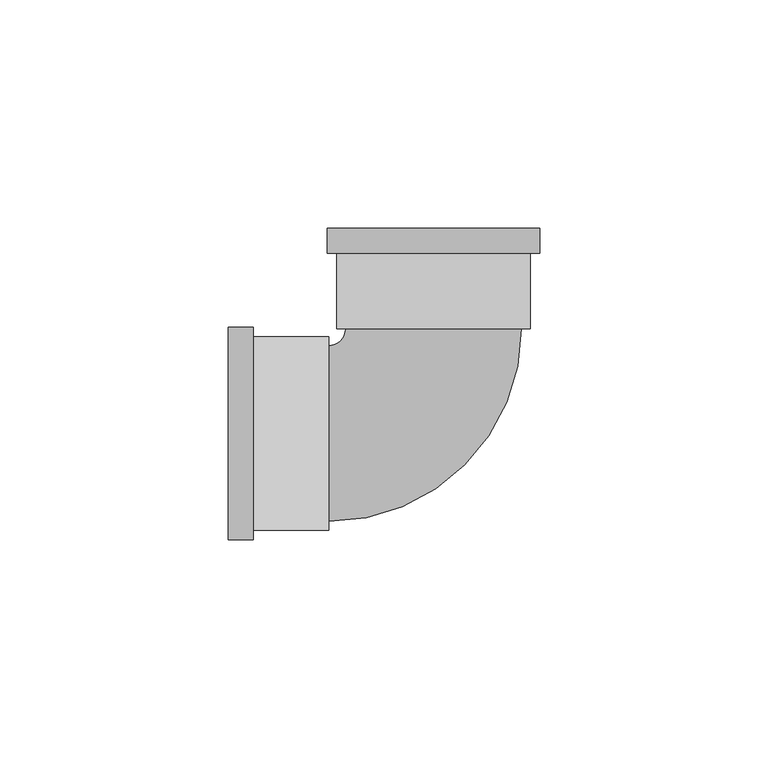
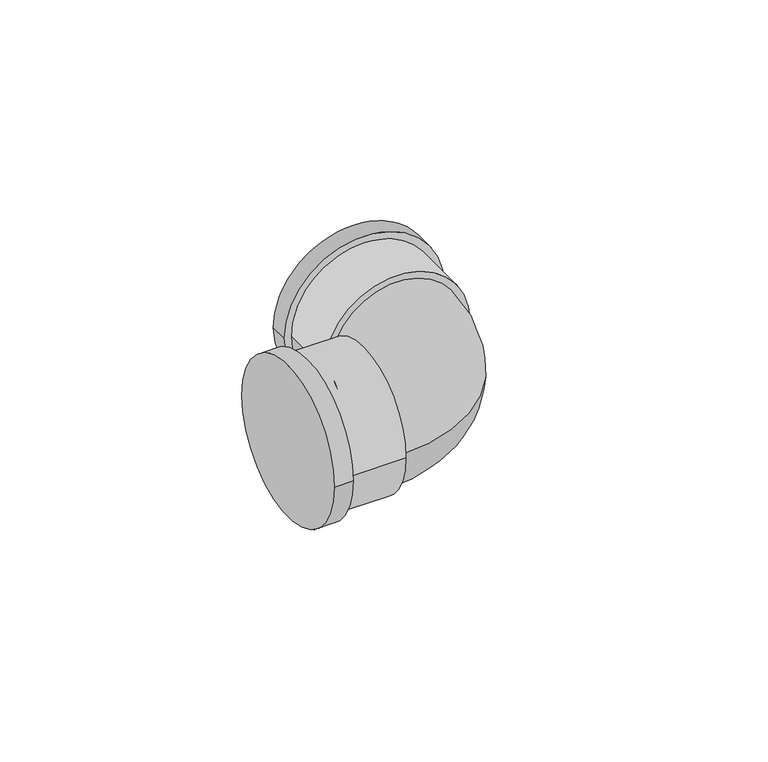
"""IFC4 building model written with IfcOpenShell, lengths in millimetres: pipe fitting geometry, Cotovelo - PVC - CW : Padrão."""

from ifc_helpers import new_model, si_unit, point, frame, origin, place, context, project, spatial, circle_curve, ellipse_curve, trimmed, source, transform, mapped, element, save
from ifc_brep_helpers import plane_surface, cylinder_surface, revolved_surface, advanced_brep


def pipe_fitting_337ff715(model_context):
    return source(origin(), model_context, "Body", "AdvancedBrep", [
        advanced_brep(
        [(-45.0002796, -23.2925, 0.0), (-45.0002796, 23.2925, 0.0), (-39.5002796, -23.2925, 0.0), (-39.5002796, 23.2925, 0.0), (-39.5002796, -21.175, 0.0), (-39.5002796, 21.175, 0.0), (-23.0002796, 21.175, 0.0), (-23.0002796, -21.175, 0.0), (-23.0002796, -19.25, 0.0), (-23.0002796, 19.25, 0.0), (-19.2502796, 23.0000456, 0.0), (19.2497204, 23.0005136, 0.0), (21.1747204, 23.000537, 0.0), (-21.1752796, 23.0000222, 0.0), (-23.2930471, 44.9999964, 0.0), (23.2919529, 45.0005628, 0.0), (21.1745198, 39.500537, 0.0), (-21.1754802, 39.5000222, 0.0), (-23.2929802, 39.4999964, 0.0), (23.2920198, 39.5005628, 0.0)],
        [
            (0, 1, circle_curve(frame((-45.0002796, 0.0, 0.0), z_axis=(-1.0, 0.0, 0.0), x_axis=(0.0, 1.0, 0.0)), 23.2925)),
            (1, 0, circle_curve(frame((-45.0002796, 0.0, 0.0), z_axis=(-1.0, 0.0, 0.0), x_axis=(0.0, 1.0, 0.0)), 23.2925)),
            (2, 3, circle_curve(frame((-39.5002796, 0.0, 0.0), z_axis=(1.0, 0.0, 0.0), x_axis=(0.0, 1.0, 0.0)), 23.2925)),
            (3, 2, circle_curve(frame((-39.5002796, 0.0, 0.0), z_axis=(1.0, 0.0, 0.0), x_axis=(0.0, 1.0, 0.0)), 23.2925)),
            (4, 5, circle_curve(frame((-39.5002796, 0.0, 0.0), z_axis=(-1.0, 0.0, 0.0), x_axis=(0.0, -1.0, 0.0)), 21.175)),
            (5, 4, circle_curve(frame((-39.5002796, 0.0, 0.0), z_axis=(-1.0, 0.0, 0.0), x_axis=(0.0, -1.0, 0.0)), 21.175)),
            (0, 2),
            (3, 1),
            (6, 7, circle_curve(frame((-23.0002796, 0.0, 0.0), z_axis=(1.0, 0.0, 0.0), x_axis=(0.0, -1.0, 0.0)), 21.175)),
            (7, 6, circle_curve(frame((-23.0002796, 0.0, 0.0), z_axis=(1.0, 0.0, 0.0), x_axis=(0.0, -1.0, 0.0)), 21.175)),
            (8, 9, circle_curve(frame((-23.0002796, 0.0, 0.0), z_axis=(-1.0, 0.0, 0.0), x_axis=(0.0, 1.0, 0.0)), 19.25)),
            (9, 8, circle_curve(frame((-23.0002796, 0.0, 0.0), z_axis=(-1.0, 0.0, 0.0), x_axis=(0.0, 1.0, 0.0)), 19.25)),
            (6, 5),
            (4, 7),
            (10, 9, circle_curve(frame((-23.0002796, 23.0, 0.0), z_axis=(0.0, 0.0, -1.0), x_axis=(0.0, -1.0, 0.0)), 3.75)),
            (8, 11, circle_curve(frame((-23.0002796, 23.0, 0.0), z_axis=(0.0, 0.0, 1.0), x_axis=(0.0, -1.0, 0.0)), 42.25)),
            (11, 10, circle_curve(frame((-0.0002796, 23.0002796, 0.0), z_axis=(1.2157218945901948e-05, -0.999999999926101, 0.0), x_axis=(-0.999999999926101, -1.2157218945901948e-05, 0.0)), 19.25)),
            (10, 11, circle_curve(frame((-0.0002796, 23.0002796, 0.0), z_axis=(1.2157218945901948e-05, -0.999999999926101, 0.0), x_axis=(-0.999999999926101, -1.2157218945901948e-05, 0.0)), 19.25)),
            (12, 13, circle_curve(frame((-0.0002796, 23.0002796, 0.0), z_axis=(1.215721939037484e-05, -0.999999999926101, 0.0), x_axis=(-0.999999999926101, -1.215721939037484e-05, 0.0)), 21.175)),
            (13, 12, circle_curve(frame((-0.0002796, 23.0002796, 0.0), z_axis=(1.215721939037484e-05, -0.999999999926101, 0.0), x_axis=(-0.999999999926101, -1.215721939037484e-05, 0.0)), 21.175)),
            (14, 15, circle_curve(frame((-0.0005471, 45.0002796, 0.0), z_axis=(-1.2157218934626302e-05, 0.999999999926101, 0.0), x_axis=(0.999999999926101, 1.2157218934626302e-05, 0.0)), 23.2925)),
            (15, 14, circle_curve(frame((-0.0005471, 45.0002796, 0.0), z_axis=(-1.2157218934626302e-05, 0.999999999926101, 0.0), x_axis=(0.999999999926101, 1.2157218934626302e-05, 0.0)), 23.2925)),
            (12, 16),
            (16, 17, circle_curve(frame((-0.0004802, 39.5002796, 0.0), z_axis=(1.215721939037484e-05, -0.999999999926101, 0.0), x_axis=(-0.999999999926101, -1.215721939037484e-05, 0.0)), 21.175)),
            (17, 13),
            (17, 16, circle_curve(frame((-0.0004802, 39.5002796, 0.0), z_axis=(1.215721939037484e-05, -0.999999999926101, 0.0), x_axis=(-0.999999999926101, -1.215721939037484e-05, 0.0)), 21.175)),
            (18, 19, circle_curve(frame((-0.0004802, 39.5002796, 0.0), z_axis=(1.2157218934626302e-05, -0.999999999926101, 0.0), x_axis=(0.999999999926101, 1.2157218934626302e-05, 0.0)), 23.2925)),
            (19, 18, circle_curve(frame((-0.0004802, 39.5002796, 0.0), z_axis=(1.2157218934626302e-05, -0.999999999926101, 0.0), x_axis=(0.999999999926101, 1.2157218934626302e-05, 0.0)), 23.2925)),
            (14, 18),
            (19, 15),
        ],
        [
            plane_surface(frame((-45.0002796, 0.0, 0.0), z_axis=(-1.0, 0.0, 0.0), x_axis=(0.0, 0.0, 1.0))),
            plane_surface(frame((-39.5002796, 0.0, 0.0), z_axis=(1.0, 0.0, 0.0), x_axis=(0.0, 0.0, 1.0))),
            cylinder_surface(frame((-45.0002796, 0.0, 0.0), z_axis=(-1.0, 0.0, 0.0), x_axis=(0.0, 1.0, 0.0)), 23.2925),
            plane_surface(frame((-23.0002796, 0.0, 0.0), z_axis=(1.0, 0.0, 0.0), x_axis=(0.0, 0.0, 1.0))),
            cylinder_surface(frame((-23.0002796, 0.0, 0.0), z_axis=(1.0, 0.0, 0.0), x_axis=(0.0, -1.0, 0.0)), 21.175),
            revolved_surface(trimmed(ellipse_curve(frame((-23.0002796, 0.0, 0.0), z_axis=(-1.0, 0.0, 0.0), x_axis=(0.0, 1.0, 0.0)), 19.25, 19.25), [point((-23.0002796, -19.25, 0.0))], [point((-23.0002796, 19.25, 0.0))], True, "CARTESIAN"), (-23.0002796, 23.0, 0.0), (0.0, 0.0, 1.0)),
            revolved_surface(trimmed(ellipse_curve(frame((-23.0002796, 0.0, 0.0), z_axis=(-1.0, 0.0, 0.0), x_axis=(0.0, 1.0, 0.0)), 19.25, 19.25), [point((-23.0002796, 19.25, 0.0))], [point((-23.0002796, -19.25, 0.0))], True, "CARTESIAN"), (-23.0002796, 23.0, 0.0), (0.0, 0.0, 1.0)),
            plane_surface(frame((-0.0002796, 23.0002796, 0.0), z_axis=(1.215721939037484e-05, -0.999999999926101, 0.0), x_axis=(0.0, 0.0, 1.0))),
            plane_surface(frame((-0.0005471, 45.0002796, 0.0), z_axis=(-1.215721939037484e-05, 0.999999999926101, 0.0), x_axis=(0.0, 0.0, 1.0))),
            cylinder_surface(frame((-0.0002796, 23.0002796, 0.0), z_axis=(1.215721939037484e-05, -0.999999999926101, 0.0), x_axis=(-0.999999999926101, -1.215721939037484e-05, 0.0)), 21.175),
            plane_surface(frame((-0.0004802, 39.5002796, 0.0), z_axis=(1.2157218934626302e-05, -0.999999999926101, 0.0), x_axis=(0.0, 0.0, 1.0))),
            cylinder_surface(frame((-0.0005471, 45.0002796, 0.0), z_axis=(-1.2157218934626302e-05, 0.999999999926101, 0.0), x_axis=(0.999999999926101, 1.2157218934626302e-05, 0.0)), 23.2925),
        ],
        [
            (0, [[1, 2]]),
            (1, [[3, 4], [5, 6]]),
            (2, [[-1, 7, -4, 8]]),
            (2, [[-2, -8, -3, -7]]),
            (3, [[9, 10], [11, 12]]),
            (4, [[-9, 13, -5, 14]]),
            (4, [[-10, -14, -6, -13]]),
            (5, [[15, -11, 16, 17]]),
            (6, [[-15, 18, -16, -12]]),
            (7, [[19, 20], [-17, -18]]),
            (8, [[21, 22]]),
            (9, [[-19, 23, 24, 25]]),
            (9, [[-20, -25, 26, -23]]),
            (10, [[27, 28], [-24, -26]]),
            (11, [[-21, 29, -28, 30]]),
            (11, [[-22, -30, -27, -29]]),
        ],
    ),
    ])


if __name__ == "__main__":
    model = new_model("IFC4")
    model_context = context("Model", 3, world=origin())
    ifc_project = project(units=[si_unit("LENGTHUNIT", "METRE", prefix="MILLI")], contexts=[model_context])
    site = spatial("IfcSite", under=ifc_project)
    building = spatial("IfcBuilding", under=site)
    placement = place(None, origin())
    pipe_fitting_shape = pipe_fitting_337ff715(model_context)
    element("IfcPipeFitting", 1, ObjectType="Cotovelo - PVC - CW : Padrão", at=placement, inside=building, context=model_context, shape_type="MappedRepresentation", body=[
        mapped(pipe_fitting_shape, transform((0.0, 0.0, 0.0), x_axis=(1.0, 0.0, 0.0), y_axis=(0.0, 1.0, 0.0), z_axis=(0.0, 0.0, 1.0))),
    ])
    save(model, "model.ifc")
